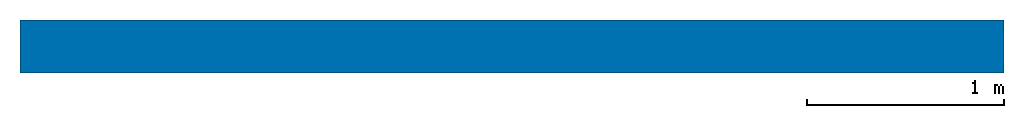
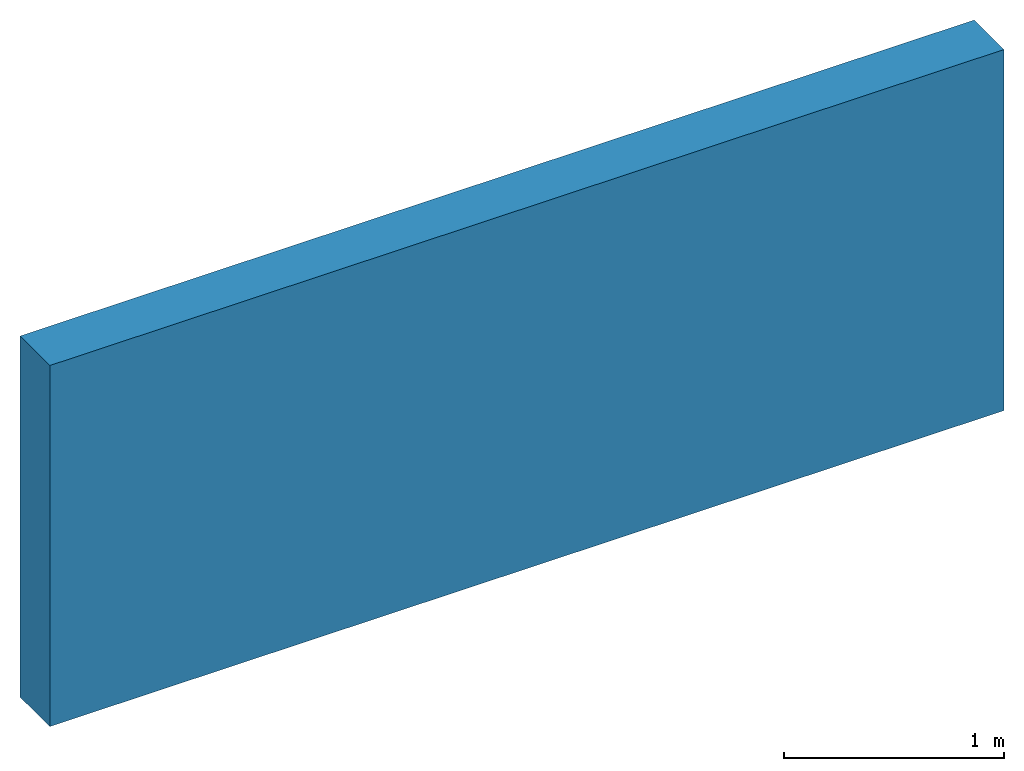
# Not in any storey: 1 wall.
"""IFC4 building model written with IfcOpenShell, lengths in millimetres."""

import ifcopenshell
import ifcopenshell.guid

model = None  # the IFC model being written
_history = None  # IfcOwnerHistory: only IFC2X3 demands one
_inside = {}  # id of a spatial element -> (the spatial element, [elements in it])
_under = {}  # id of a project, library or spatial element -> (it, [spatial elements below it])
_declared = {}  # id of a project -> (the project, [libraries it declares])
_typed = {}  # id of a type object -> (the type object, [elements of that type])
_made_of = {}  # id of a material, layer set ... -> (it, [elements and type objects made of it])


def new_model(schema):
    """Start an empty IFC model of exactly this schema.

    Asked for "IFC4X3", IfcOpenShell would pick the latest addendum, in which some entities
    have other attributes; the version numbers below select the first issue.
    IFC2X3 requires an IfcOwnerHistory on every rooted entity: one is made here for all.
    """
    global model, _history
    if schema == "IFC4X3":
        model = ifcopenshell.file(schema_version=(4, 3, 0, 0))
    else:
        model = ifcopenshell.file(schema=schema)
    _inside.clear()
    _under.clear()
    _declared.clear()
    _typed.clear()
    _made_of.clear()
    _history = None
    if model.schema == "IFC2X3":
        org = make("IfcOrganization", Name="unknown")
        user = make(
            "IfcPersonAndOrganization",
            ThePerson=make("IfcPerson", FamilyName="unknown"),
            TheOrganization=org,
        )
        app = make(
            "IfcApplication",
            ApplicationDeveloper=org,
            Version="unknown",
            ApplicationFullName="unknown",
            ApplicationIdentifier="unknown",
        )
        _history = make(
            "IfcOwnerHistory",
            OwningUser=user,
            OwningApplication=app,
            ChangeAction="ADDED",
            CreationDate=0,
        )
    return model


def make(cls, **values):
    """One entity of the class cls with the attributes given. An attribute that is None is left unset."""
    return model.create_entity(
        cls, **{name: value for name, value in values.items() if value is not None}
    )


def rooted(cls, **values):
    """An entity with a GlobalId (a new one), such as an element, a storey or a relation."""
    return make(cls, GlobalId=ifcopenshell.guid.new(), OwnerHistory=_history, **values)


def si_unit(unit_type, name, prefix=None):
    """IfcSIUnit, for example si_unit("LENGTHUNIT", "METRE", prefix="MILLI")."""
    return make("IfcSIUnit", UnitType=unit_type, Prefix=prefix, Name=name)


def assignment(units):
    """IfcUnitAssignment: the units of a project."""
    return None if units is None else make("IfcUnitAssignment", Units=units)


def point(xyz):
    """IfcCartesianPoint."""
    return None if xyz is None else make("IfcCartesianPoint", Coordinates=xyz)


def direction(xyz):
    """IfcDirection."""
    return None if xyz is None else make("IfcDirection", DirectionRatios=xyz)


def frame(location, z_axis=None, x_axis=None):
    """IfcAxis2Placement3D, a coordinate frame: its origin and axes. An axis left out is left unset."""
    return make(
        "IfcAxis2Placement3D",
        Location=point(location),
        Axis=direction(z_axis),
        RefDirection=direction(x_axis),
    )


def frame_2d(location, x_axis=None):
    """IfcAxis2Placement2D, a coordinate frame in the plane: its origin and x axis."""
    return make(
        "IfcAxis2Placement2D", Location=point(location), RefDirection=direction(x_axis)
    )


def origin():
    """The frame at (0, 0, 0) with its axes left unset."""
    return frame((0.0, 0.0, 0.0))


def place(relative_to, where):
    """IfcLocalPlacement: puts the frame where relative to a parent placement (None: the world)."""
    return make(
        "IfcLocalPlacement", PlacementRelTo=relative_to, RelativePlacement=where
    )


def context(
    kind, dimensions, precision=None, world=None, true_north=None, identifier=None
):
    """IfcGeometricRepresentationContext, for example the 3D "Model" context."""
    return make(
        "IfcGeometricRepresentationContext",
        ContextIdentifier=identifier,
        ContextType=kind,
        CoordinateSpaceDimension=dimensions,
        Precision=precision,
        WorldCoordinateSystem=world,
        TrueNorth=true_north,
    )


def subcontext(parent, identifier, kind, view, scale=None):
    """IfcGeometricRepresentationSubContext, for example "Body" below "Model"."""
    return make(
        "IfcGeometricRepresentationSubContext",
        ContextIdentifier=identifier,
        ContextType=kind,
        ParentContext=parent,
        TargetScale=scale,
        TargetView=view,
    )


def project(units=None, contexts=None):
    """IfcProject with its units and contexts."""
    return rooted(
        "IfcProject",
        Name="project",
        RepresentationContexts=contexts,
        UnitsInContext=assignment(units),
    )


def spatial(cls, under=None, at=None, **own):
    """A site, building, storey or space (cls), placed at a placement, below another one or the project."""
    s = rooted(cls, ObjectPlacement=at, **own)
    if under is not None:
        _under.setdefault(under.id(), (under, []))[1].append(s)
    return s


def profile(cls, at=None, kind="AREA", **sizes):
    """A parametric profile (cls). Its sizes go by their IFC names, for example OverallWidth=200.0."""
    return make(cls, ProfileType=kind, Position=at, **sizes)


def rectangle(**sizes):
    """IfcRectangleProfileDef."""
    return profile("IfcRectangleProfileDef", **sizes)


def extrude(swept, where, along, depth):
    """IfcExtrudedAreaSolid: the profile swept, set in the frame where, extruded along a direction by depth."""
    return make(
        "IfcExtrudedAreaSolid",
        SweptArea=swept,
        Position=where,
        ExtrudedDirection=direction(along),
        Depth=depth,
    )


def shape(context_of_items, identifier, shape_type, items):
    """IfcShapeRepresentation: the items that make up one representation, for example the "Body"."""
    return make(
        "IfcShapeRepresentation",
        ContextOfItems=context_of_items,
        RepresentationIdentifier=identifier,
        RepresentationType=shape_type,
        Items=items,
    )


def material(Name=None, Category=None):
    """IfcMaterial."""
    return make("IfcMaterial", Name=Name, Category=Category)


def layer(
    of_material, thickness, ventilated=None, Name=None, Category=None, Priority=None
):
    """IfcMaterialLayer: one layer of a wall or slab, of a material (None: an air gap)."""
    return make(
        "IfcMaterialLayer",
        Material=of_material,
        LayerThickness=thickness,
        IsVentilated=ventilated,
        Name=Name,
        Category=Category,
        Priority=Priority,
    )


def layer_set(layers, Name=None):
    """IfcMaterialLayerSet."""
    return make("IfcMaterialLayerSet", MaterialLayers=layers, LayerSetName=Name)


def layer_usage(for_layer_set, set_direction, sense, offset, extent=None):
    """IfcMaterialLayerSetUsage: how a layer set lies in its element."""
    return make(
        "IfcMaterialLayerSetUsage",
        ForLayerSet=for_layer_set,
        LayerSetDirection=set_direction,
        DirectionSense=sense,
        OffsetFromReferenceLine=offset,
        ReferenceExtent=extent,
    )


def made_of(thing, what):
    """Note that an element or type object is made of a material, layer set ...; save() writes the relation."""
    if what is not None:
        _made_of.setdefault(what.id(), (what, []))[1].append(thing)
    return thing


def type_object(cls, material=None, **own):
    """A type object (cls), such as IfcWallType, which elements share."""
    return made_of(rooted(cls, **own), material)


def element(
    cls,
    number,
    at=None,
    inside=None,
    cuts=None,
    type_object=None,
    material=None,
    context=None,
    identifier="Body",
    shape_type=None,
    held_by="IfcProductDefinitionShape",
    body=None,
    shapes=None,
    **own,
):
    """One element of the class cls, such as IfcWall. Its Tag is "e" and its number.

    at: its placement. inside: the storey or other place that contains it. cuts: it is an
    opening in that element (IfcRelVoidsElement). A single representation is given by context,
    identifier, shape_type and body (its items); several are given by shapes. held_by: the class
    of the entity that holds the representations. save() writes the other relations.
    """
    e = rooted(cls, Tag="e%d" % number, ObjectPlacement=at, **own)
    if body is not None:
        shapes = [shape(context, identifier, shape_type, body)]
    if shapes is not None:
        e.Representation = make(held_by, Representations=shapes)
    if inside is not None:
        _inside.setdefault(inside.id(), (inside, []))[1].append(e)
    if cuts is not None:
        rooted(
            "IfcRelVoidsElement", RelatingBuildingElement=cuts, RelatedOpeningElement=e
        )
    if type_object is not None:
        _typed.setdefault(type_object.id(), (type_object, []))[1].append(e)
    return made_of(e, material)


def aggregate(whole, parts):
    """IfcRelAggregates: a whole, such as a stair, and the parts it consists of."""
    return rooted("IfcRelAggregates", RelatingObject=whole, RelatedObjects=parts)


def save(model, path):
    """Write the relations noted so far, then the file.

    IfcRelAggregates (storeys below a building ...), IfcRelContainedInSpatialStructure (elements
    in a storey), IfcRelDefinesByType, IfcRelAssociatesMaterial and IfcRelDeclares: one each for
    every whole, place, type object, material and project.
    """
    for whole, parts in _under.values():
        aggregate(whole, parts)
    for where, things in _inside.values():
        rooted(
            "IfcRelContainedInSpatialStructure",
            RelatedElements=things,
            RelatingStructure=where,
        )
    for kind, things in _typed.values():
        rooted("IfcRelDefinesByType", RelatedObjects=things, RelatingType=kind)
    for what, things in _made_of.values():
        rooted("IfcRelAssociatesMaterial", RelatedObjects=things, RelatingMaterial=what)
    for by, libraries in _declared.values():
        rooted("IfcRelDeclares", RelatingContext=by, RelatedDefinitions=libraries)
    model.write(path)


model = new_model("IFC4")

# Units and contexts
model_context = context("Model", 3, precision=0.0001, world=origin())
body_context = subcontext(model_context, "Body", "Model", "MODEL_VIEW")
ifc_project = project(units=[si_unit("LENGTHUNIT", "METRE", prefix="MILLI"), si_unit("PLANEANGLEUNIT", "RADIAN"), si_unit("TIMEUNIT", "SECOND")], contexts=[model_context])

# Building
building = spatial("IfcBuilding", under=ifc_project, Name="IfcBuilding")

# Wall
ifc_material_1 = material(Name="Masonry - Brick - Brown")
ifc_layer_1 = layer(ifc_material_1, 110.0, ventilated="UNKNOWN", Name="Finish")
ifc_layer_2 = layer(None, 50.0, ventilated=True, Name="Air Infiltration Barrier")
ifc_material_2 = material(Name="Masonry")
ifc_layer_3 = layer(ifc_material_2, 110.0, ventilated="UNKNOWN", Name="Core")
ifc_layer_set = layer_set([ifc_layer_1, ifc_layer_2, ifc_layer_3], Name="Double Brick - 270")
ifc_layer_usage = layer_usage(ifc_layer_set, "AXIS2", "POSITIVE", 0.0)
wall_type = type_object("IfcWallType", Name="Double Brick - 270", PredefinedType="NOTDEFINED", material=ifc_layer_set)
wall_placement = place(None, origin())
element("IfcWall", 1, at=wall_placement, inside=building, type_object=wall_type, material=ifc_layer_usage, context=body_context, shape_type="SweptSolid", body=[
    extrude(rectangle(XDim=5000.0, YDim=270.0, at=frame_2d((2500.0, 135.0))), None, (0.0, 0.0, 1.0), 2000.0),
])

save(model, "model.ifc")
